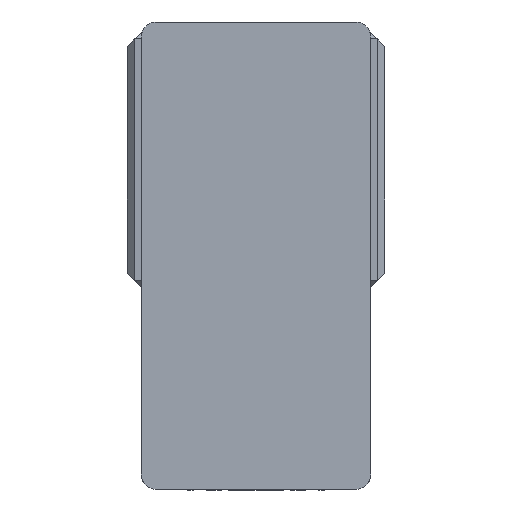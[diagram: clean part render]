
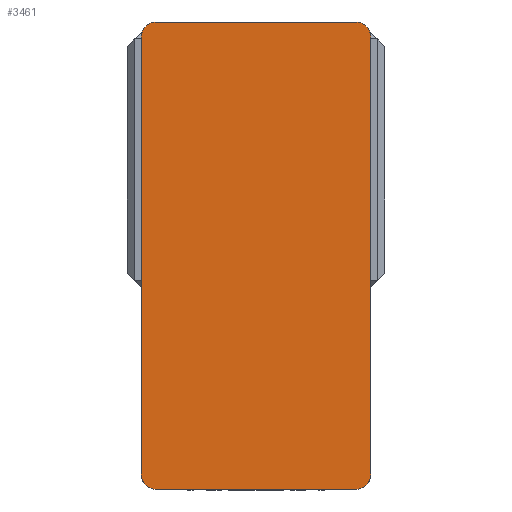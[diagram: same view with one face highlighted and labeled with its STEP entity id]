
A CAD part, left-side view. The second image highlights one B-rep face of the part: STEP entity #3461.
In plain terms, the highlighted planar face has unit normal (-1, 0, 0) as drawn and (0, 0, 1) by its records, which use the part's own axes.
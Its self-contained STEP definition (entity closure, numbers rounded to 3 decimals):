
#280 = DIRECTION ( 'NONE',  ( 0., -1., 0. ) ) ;
#342 = CARTESIAN_POINT ( 'NONE',  ( 65., 142.5, 105. ) ) ;
#392 = DIRECTION ( 'NONE',  ( 0., 0., 1. ) ) ;
#451 = ORIENTED_EDGE ( 'NONE', *, *, #11192, .T. ) ;
#672 = DIRECTION ( 'NONE',  ( 1., 0., 0. ) ) ;
#962 = CIRCLE ( 'NONE', #17151, 10. ) ;
#1223 = VECTOR ( 'NONE', #11860, 1000. ) ;
#1371 = VERTEX_POINT ( 'NONE', #12618 ) ;
#2140 = CARTESIAN_POINT ( 'NONE',  ( -75., -152.5, 105. ) ) ;
#2166 = DIRECTION ( 'NONE',  ( 1., 0., 0. ) ) ;
#2247 = AXIS2_PLACEMENT_3D ( 'NONE', #10968, #392, #12717 ) ;
#2842 = VERTEX_POINT ( 'NONE', #9800 ) ;
#3275 = CARTESIAN_POINT ( 'NONE',  ( -75., 142.5, 105. ) ) ;
#3461 = ADVANCED_FACE ( 'NONE', ( #10581 ), #20024, .T. ) ;
#4285 = LINE ( 'NONE', #19688, #15988 ) ;
#4377 = ORIENTED_EDGE ( 'NONE', *, *, #15454, .T. ) ;
#4541 = EDGE_CURVE ( 'NONE', #1371, #11720, #962, .T. ) ;
#7363 = DIRECTION ( 'NONE',  ( 0., 0., 1. ) ) ;
#7572 = EDGE_CURVE ( 'NONE', #9825, #17257, #17221, .T. ) ;
#7946 = CIRCLE ( 'NONE', #2247, 10. ) ;
#8286 = CARTESIAN_POINT ( 'NONE',  ( -65., -142.5, 105. ) ) ;
#8656 = CARTESIAN_POINT ( 'NONE',  ( -65., 152.5, 105. ) ) ;
#8971 = EDGE_LOOP ( 'NONE', ( #20601, #10610, #451, #19267, #4377, #19545, #16628, #10500 ) ) ;
#9214 = EDGE_CURVE ( 'NONE', #17257, #2842, #20004, .T. ) ;
#9485 = CARTESIAN_POINT ( 'NONE',  ( 0., 0., 105. ) ) ;
#9800 = CARTESIAN_POINT ( 'NONE',  ( 75., -142.5, 105. ) ) ;
#9825 = VERTEX_POINT ( 'NONE', #13470 ) ;
#9995 = DIRECTION ( 'NONE',  ( 1., 0., 0. ) ) ;
#10500 = ORIENTED_EDGE ( 'NONE', *, *, #13188, .T. ) ;
#10581 = FACE_OUTER_BOUND ( 'NONE', #8971, .T. ) ;
#10610 = ORIENTED_EDGE ( 'NONE', *, *, #9214, .T. ) ;
#10968 = CARTESIAN_POINT ( 'NONE',  ( -65., 142.5, 105. ) ) ;
#11192 = EDGE_CURVE ( 'NONE', #2842, #1371, #19950, .T. ) ;
#11244 = DIRECTION ( 'NONE',  ( 0., 0., 1. ) ) ;
#11720 = VERTEX_POINT ( 'NONE', #19785 ) ;
#11860 = DIRECTION ( 'NONE',  ( 0., 1., 0. ) ) ;
#12298 = VERTEX_POINT ( 'NONE', #8656 ) ;
#12596 = CARTESIAN_POINT ( 'NONE',  ( 65., -152.5, 105. ) ) ;
#12618 = CARTESIAN_POINT ( 'NONE',  ( 75., 142.5, 105. ) ) ;
#12672 = EDGE_CURVE ( 'NONE', #21165, #15226, #4285, .T. ) ;
#12679 = DIRECTION ( 'NONE',  ( 0., 0., 1. ) ) ;
#12717 = DIRECTION ( 'NONE',  ( 1., 0., 0. ) ) ;
#13188 = EDGE_CURVE ( 'NONE', #15226, #9825, #21041, .T. ) ;
#13377 = AXIS2_PLACEMENT_3D ( 'NONE', #9485, #11244, #672 ) ;
#13402 = DIRECTION ( 'NONE',  ( -1., 0., 0. ) ) ;
#13470 = CARTESIAN_POINT ( 'NONE',  ( -65., -152.5, 105. ) ) ;
#15064 = CARTESIAN_POINT ( 'NONE',  ( -75., 152.5, 105. ) ) ;
#15226 = VERTEX_POINT ( 'NONE', #20038 ) ;
#15454 = EDGE_CURVE ( 'NONE', #11720, #12298, #20944, .T. ) ;
#15988 = VECTOR ( 'NONE', #280, 1000. ) ;
#16301 = AXIS2_PLACEMENT_3D ( 'NONE', #17802, #7363, #19618 ) ;
#16628 = ORIENTED_EDGE ( 'NONE', *, *, #12672, .T. ) ;
#16667 = AXIS2_PLACEMENT_3D ( 'NONE', #8286, #20558, #9995 ) ;
#17151 = AXIS2_PLACEMENT_3D ( 'NONE', #342, #12679, #2166 ) ;
#17221 = LINE ( 'NONE', #2140, #22011 ) ;
#17257 = VERTEX_POINT ( 'NONE', #12596 ) ;
#17802 = CARTESIAN_POINT ( 'NONE',  ( 65., -142.5, 105. ) ) ;
#17840 = EDGE_CURVE ( 'NONE', #12298, #21165, #7946, .T. ) ;
#19267 = ORIENTED_EDGE ( 'NONE', *, *, #4541, .T. ) ;
#19344 = DIRECTION ( 'NONE',  ( 1., 0., 0. ) ) ;
#19545 = ORIENTED_EDGE ( 'NONE', *, *, #17840, .T. ) ;
#19618 = DIRECTION ( 'NONE',  ( 1., 0., 0. ) ) ;
#19688 = CARTESIAN_POINT ( 'NONE',  ( -75., 152.5, 105. ) ) ;
#19785 = CARTESIAN_POINT ( 'NONE',  ( 65., 152.5, 105. ) ) ;
#19950 = LINE ( 'NONE', #20683, #1223 ) ;
#20004 = CIRCLE ( 'NONE', #16301, 10. ) ;
#20024 = PLANE ( 'NONE',  #13377 ) ;
#20038 = CARTESIAN_POINT ( 'NONE',  ( -75., -142.5, 105. ) ) ;
#20385 = VECTOR ( 'NONE', #13402, 1000. ) ;
#20558 = DIRECTION ( 'NONE',  ( 0., 0., 1. ) ) ;
#20601 = ORIENTED_EDGE ( 'NONE', *, *, #7572, .T. ) ;
#20683 = CARTESIAN_POINT ( 'NONE',  ( 75., 152.5, 105. ) ) ;
#20944 = LINE ( 'NONE', #15064, #20385 ) ;
#21041 = CIRCLE ( 'NONE', #16667, 10. ) ;
#21165 = VERTEX_POINT ( 'NONE', #3275 ) ;
#22011 = VECTOR ( 'NONE', #19344, 1000. ) ;
